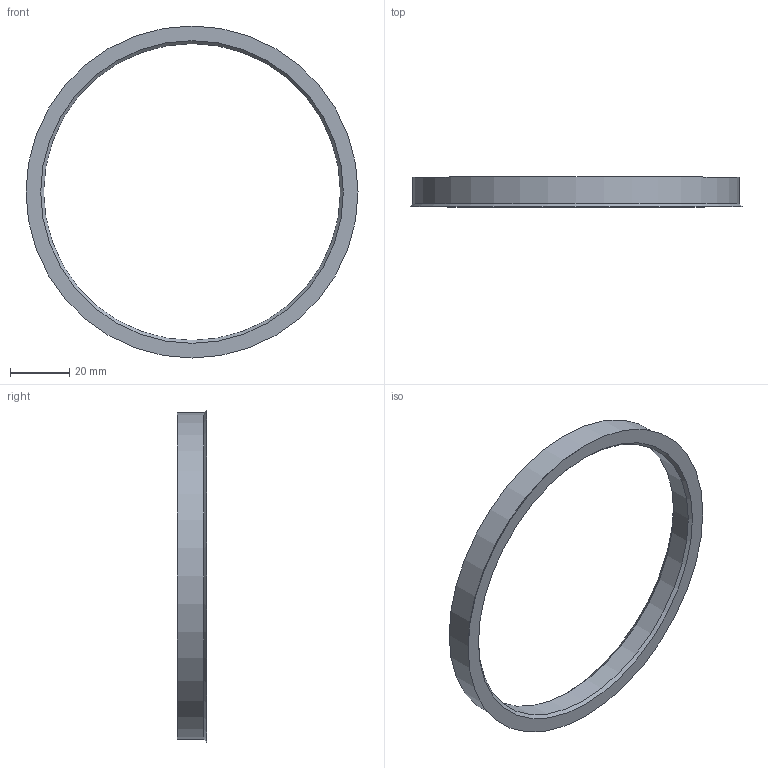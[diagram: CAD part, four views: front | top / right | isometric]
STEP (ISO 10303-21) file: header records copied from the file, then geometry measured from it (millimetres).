
FILE_DESCRIPTION(/* description */ (''),/* implementation_level */ '2;1');
FILE_NAME(/* name */ 'G:\CAD Library\Team Tasks\DIPP\11th Intake\Bradley Coles\Design Drafting\Random\Hub Rings\ipt\HubRing_110-100.1.stp',/* time_stamp */ '2025-07-22T13:40:43+08:00',/* author */ ('BCOLES'),/* organization */ (''),/* preprocessor_version */ 'ST-DEVELOPER v18.1',/* originating_system */ 'Autodesk Inventor 2022',/* authorisation */ '');
FILE_SCHEMA (('AUTOMOTIVE_DESIGN { 1 0 10303 214 3 1 1 }'));
Length unit declared in the file: millimetre
Products named in the file (1): HubRing_110-100.1
Bounding box: 112 x 10 x 112 mm (x, y, z)
Volume: 15714.4 mm3; surface area: 9817.9 mm2
Topology: 1 solids, 1 shells, 7 faces, 13 edges, 8 vertices
Faces by surface type: cone 3, cylinder 2, plane 2
Full cylindrical faces by diameter (mm): 100.1 x1, 110 x1
Entity records: 226 total; most frequent: DIRECTION 37, CARTESIAN_POINT 29, ORIENTED_EDGE 26, AXIS2_PLACEMENT_3D 16, EDGE_CURVE 13, EDGE_LOOP 9, CIRCLE 8, VERTEX_POINT 8
